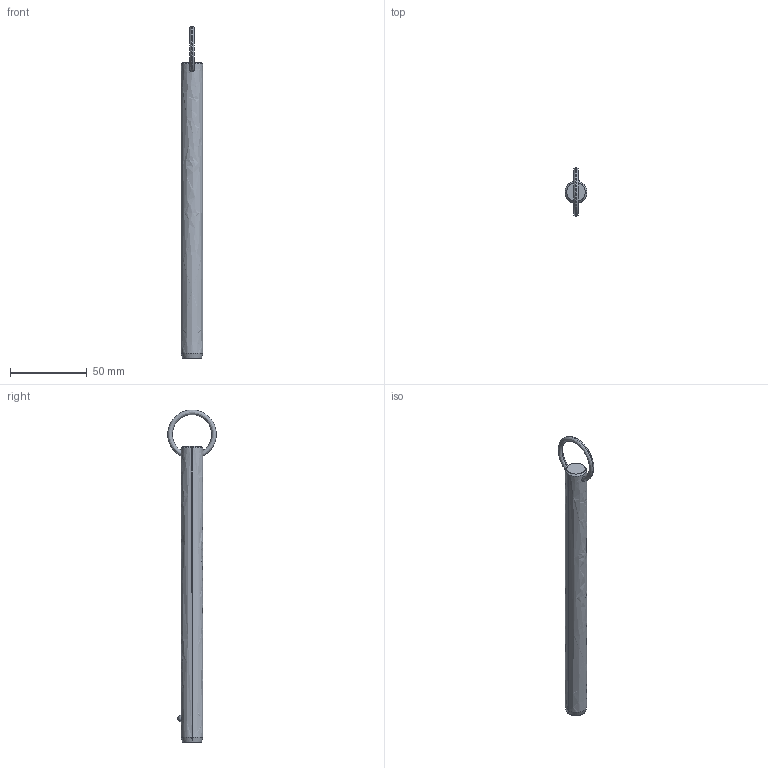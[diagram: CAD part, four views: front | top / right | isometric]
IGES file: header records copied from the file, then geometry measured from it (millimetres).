
Start section: SolidWorks IGES file using analytic representation for surfaces
Global section: file name: C:\Users\liam_\OneDrive\Documents\WORK\Work for WixRoyd\Job Files\J-00019 - Matt Davis CAD Checking\04. CAD Drawings\automotion20190605\P1250.2_v2\P1250.2_v2_20190729_IGES\P1250.056-660.igs; native system: SolidWorks 2017; preprocessor: SolidWorks 2017; author: liam_; date: 190729.232827; units: millimetre
Bounding box: 14.2 x 31.7 x 216.7 mm (x, y, z)
Surface area: 9571.2 mm2 (no closed solid volume)
Topology: 0 solids, 0 shells, 12 faces, 285 edges, 283 vertices
Faces by surface type: revolution 8, bspline 4
